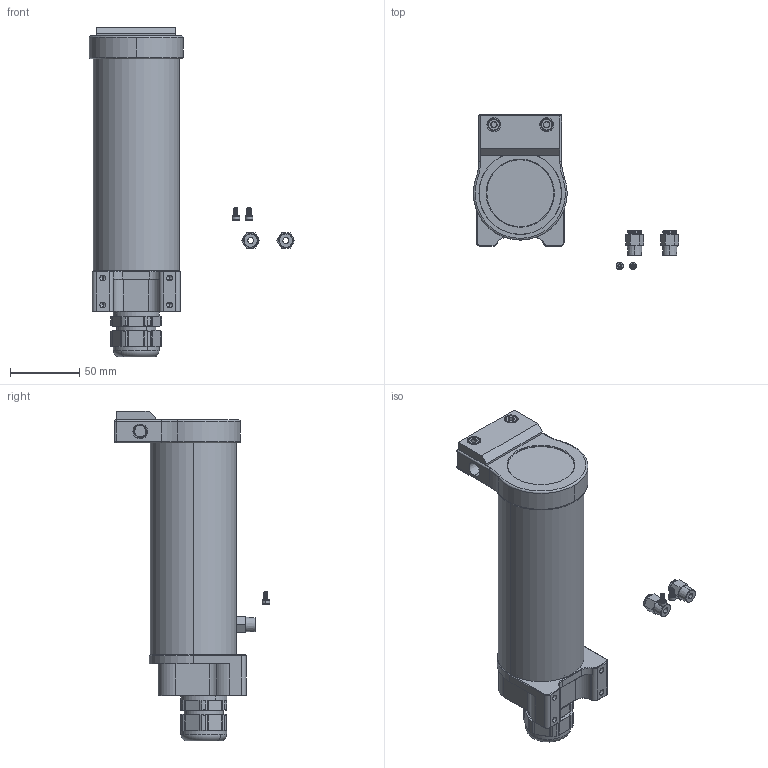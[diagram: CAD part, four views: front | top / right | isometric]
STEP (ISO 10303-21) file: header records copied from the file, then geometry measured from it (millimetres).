
FILE_DESCRIPTION (( 'STEP AP203' ), '1' );
FILE_NAME ('24C-EJ.STEP', '2022-04-19T18:16:29', ( '' ), ( '' ), 'SwSTEP 2.0', 'SolidWorks 2021', '' );
FILE_SCHEMA (( 'CONFIG_CONTROL_DESIGN' ));
Length unit declared in the file: inch
Products named in the file (20): PG21-B01; 91292A108_91292A108; 200394; 400119; PG21-01-01-01-03; 91292A111_91292A111; 500174; 201151; 24C-EJ; 200395; 200428; 91292A125_91292A125; 9452K141_Expanded; 200316; 4452K541; PG21-S01; KQ2H07-34AS; PG21-I01; PG21-N03; 400118
Assembly tree (26 placements, depth 3):
  24C-EJ
    200316
    200428
    201151
    400119
    500174
    PG21-01-01-01-03
      PG21-B01
      PG21-I01
      PG21-S01
      PG21-N03
    4452K541  x3
    9452K141_Expanded
    91292A108_91292A108  x3
    91292A111_91292A111  x2
    KQ2H07-34AS  x2
    91292A125_91292A125  x2
    400118
    200395
    200394
Bounding box: 148.36 x 112.14 x 238.29 mm (x, y, z)
Volume: 235127.3 mm3; surface area: 152856.5 mm2
Topology: 26 solids, 26 shells, 1401 faces, 3641 edges, 2316 vertices
Faces by surface type: cylinder 666, plane 347, cone 338, torus 23, bspline 23, sphere 4
Entity records: 38198 total; most frequent: CARTESIAN_POINT 13687, ORIENTED_EDGE 4844, DIRECTION 4482, EDGE_CURVE 2422, AXIS2_PLACEMENT_3D 1746, VERTEX_POINT 1532, EDGE_LOOP 1042, VECTOR 990
